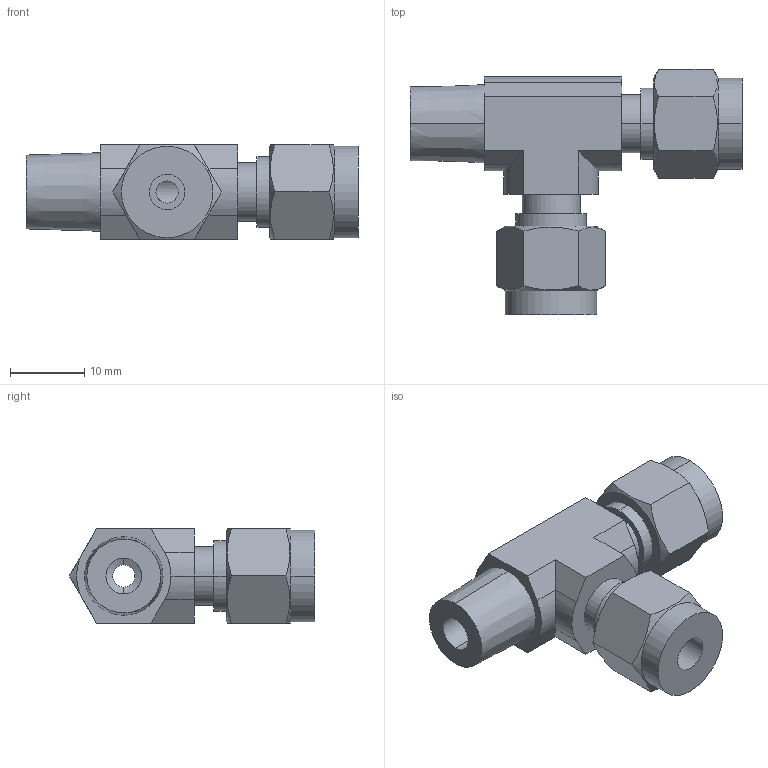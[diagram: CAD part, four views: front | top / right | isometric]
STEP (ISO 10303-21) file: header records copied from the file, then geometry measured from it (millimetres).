
FILE_DESCRIPTION (( 'STEP AP203' ), '1' );
FILE_NAME ('DTK 03-02 SS.STEP', '2009-09-08T10:02:59', ( ' ' ), ( '' ), 'SwSTEP 2.0', 'SolidWorks 2008', '' );
FILE_SCHEMA (( 'CONFIG_CONTROL_DESIGN' ));
Length unit declared in the file: millimetre
Products named in the file (1): DTK 03-02 SS
Bounding box: 44.7 x 33.03 x 12.7 mm (x, y, z)
Volume: 6519.6 mm3; surface area: 4019.1 mm2
Topology: 1 solids, 1 shells, 76 faces, 185 edges, 120 vertices
Faces by surface type: plane 36, cylinder 28, cone 12
Entity records: 2549 total; most frequent: CARTESIAN_POINT 695, ORIENTED_EDGE 370, DIRECTION 361, EDGE_CURVE 185, AXIS2_PLACEMENT_3D 136, VERTEX_POINT 120, EDGE_LOOP 89, VECTOR 89
